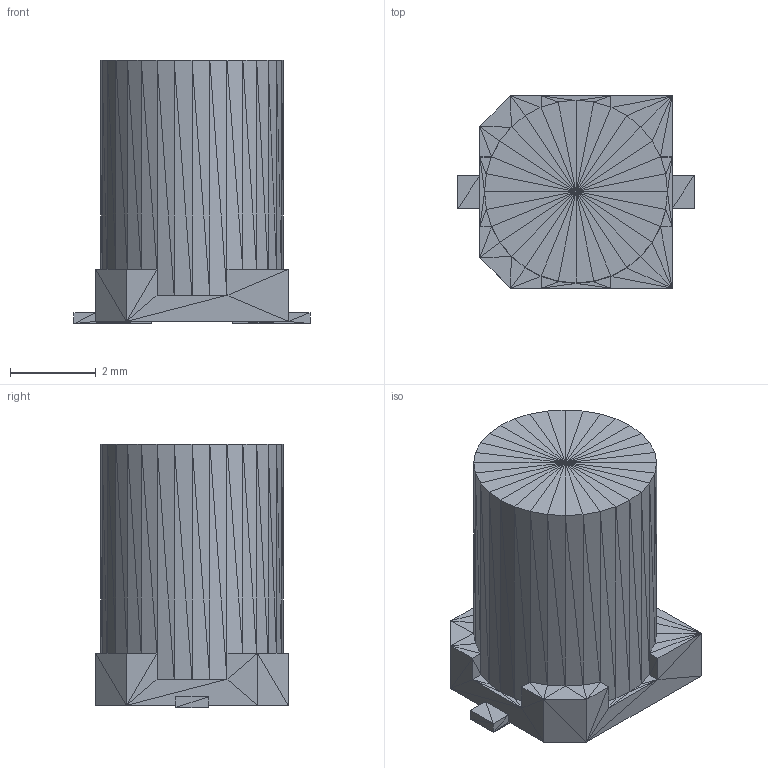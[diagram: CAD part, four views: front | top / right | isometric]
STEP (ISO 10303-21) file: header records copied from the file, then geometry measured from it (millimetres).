
FILE_DESCRIPTION(('STEP AP214'),'1');
FILE_NAME('SM_RADIAL_B','2019-07-31T20:05:49',(''),(''),'','','');
FILE_SCHEMA(('AUTOMOTIVE_DESIGN'));
Length unit declared in the file: millimetre
Products named in the file (1): product
Bounding box: 5.51 x 4.5 x 6.15 mm (x, y, z)
Surface area: 134.1 mm2 (no closed solid volume)
Topology: 0 solids, 230 shells, 230 faces, 690 edges, 690 vertices
Faces by surface type: plane 230
Entity records: 7640 total; most frequent: CARTESIAN_POINT 1611, DIRECTION 1152, ORIENTED_EDGE 690, EDGE_CURVE 690, VERTEX_POINT 690, LINE 690, VECTOR 690, AXIS2_PLACEMENT_3D 231
